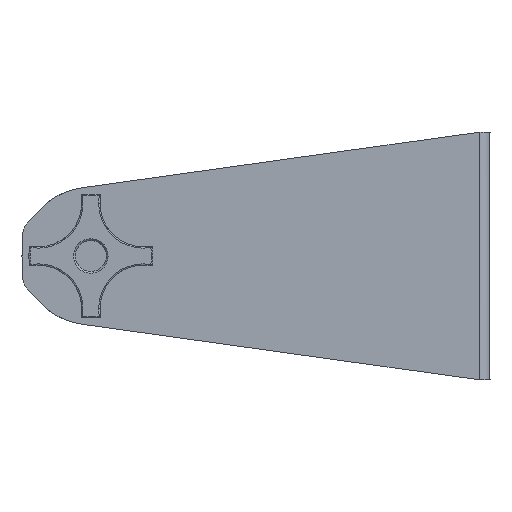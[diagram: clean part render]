
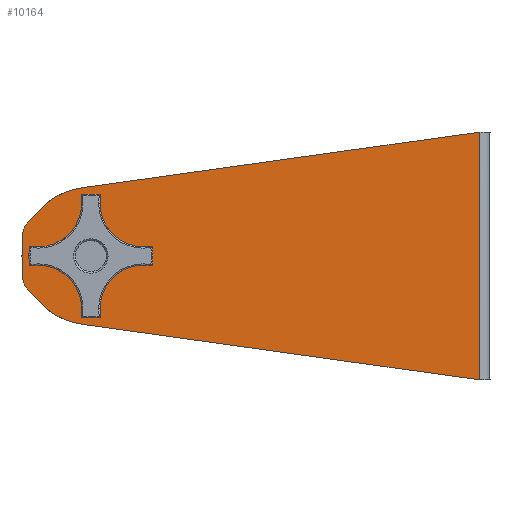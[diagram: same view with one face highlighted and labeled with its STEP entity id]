
A CAD part, left-side view. The second image highlights one B-rep face of the part: STEP entity #10164.
In plain terms, the highlighted planar face has unit normal (-1, 0, 0).
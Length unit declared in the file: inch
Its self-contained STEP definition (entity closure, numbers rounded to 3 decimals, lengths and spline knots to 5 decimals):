
#50 = ORIENTED_EDGE ( 'NONE', *, *, #1726, .F. ) ;
#107 = CARTESIAN_POINT ( 'NONE',  ( -8.513, 8.5, -0.31 ) ) ;
#120 = DIRECTION ( 'NONE',  ( 0., -0.706, 0.708 ) ) ;
#122 = VECTOR ( 'NONE', #7077, 39.37008 ) ;
#171 = VERTEX_POINT ( 'NONE', #4227 ) ;
#313 = CARTESIAN_POINT ( 'NONE',  ( -8.513, 7.0545, 0. ) ) ;
#434 = DIRECTION ( 'NONE',  ( 1., 0., 0. ) ) ;
#484 = DIRECTION ( 'NONE',  ( 1., 0., 0. ) ) ;
#500 = CIRCLE ( 'NONE', #2412, 0.5 ) ;
#652 = AXIS2_PLACEMENT_3D ( 'NONE', #5500, #434, #6367 ) ;
#709 = CARTESIAN_POINT ( 'NONE',  ( -8.513, 8.13521, 0.88255 ) ) ;
#719 = EDGE_CURVE ( 'NONE', #6166, #3842, #1311, .T. ) ;
#734 = CARTESIAN_POINT ( 'NONE',  ( -8.513, 7.42316, 1.23795 ) ) ;
#789 = DIRECTION ( 'NONE',  ( 1., 0., 0. ) ) ;
#839 = EDGE_CURVE ( 'NONE', #7412, #2497, #3029, .T. ) ;
#1010 = DIRECTION ( 'NONE',  ( 1., 0., 0. ) ) ;
#1063 = DIRECTION ( 'NONE',  ( 0., -0.99, 0.139 ) ) ;
#1311 = CIRCLE ( 'NONE', #4528, 0.5 ) ;
#1726 = EDGE_CURVE ( 'NONE', #3090, #4488, #6056, .T. ) ;
#1893 = EDGE_LOOP ( 'NONE', ( #4747, #8431, #1918, #8156, #50, #7754, #8620, #4271, #6674, #3275 ) ) ;
#1912 = DIRECTION ( 'NONE',  ( 1., 0., 0. ) ) ;
#1918 = ORIENTED_EDGE ( 'NONE', *, *, #9965, .F. ) ;
#2158 = VERTEX_POINT ( 'NONE', #6578 ) ;
#2278 = EDGE_CURVE ( 'NONE', #3842, #2158, #4630, .T. ) ;
#2412 = AXIS2_PLACEMENT_3D ( 'NONE', #6994, #1912, #7845 ) ;
#2452 = VERTEX_POINT ( 'NONE', #5559 ) ;
#2497 = VERTEX_POINT ( 'NONE', #7381 ) ;
#2719 = VECTOR ( 'NONE', #6341, 39.37008 ) ;
#2863 = AXIS2_PLACEMENT_3D ( 'NONE', #5551, #484, #6411 ) ;
#2874 = CIRCLE ( 'NONE', #10827, 0.1955 ) ;
#2979 = FACE_OUTER_BOUND ( 'NONE', #1893, .T. ) ;
#3029 = CIRCLE ( 'NONE', #7950, 0.1955 ) ;
#3090 = VERTEX_POINT ( 'NONE', #4776 ) ;
#3184 = DIRECTION ( 'NONE',  ( 0., -1., 0. ) ) ;
#3275 = ORIENTED_EDGE ( 'NONE', *, *, #10072, .F. ) ;
#3309 = DIRECTION ( 'NONE',  ( 0., -1., 0. ) ) ;
#3311 = CARTESIAN_POINT ( 'NONE',  ( -8.513, 8.13521, -0.88255 ) ) ;
#3452 = LINE ( 'NONE', #4659, #9983 ) ;
#3517 = CIRCLE ( 'NONE', #652, 1.25 ) ;
#3842 = VERTEX_POINT ( 'NONE', #107 ) ;
#3848 = EDGE_CURVE ( 'NONE', #2158, #3090, #500, .T. ) ;
#3948 = DIRECTION ( 'NONE',  ( 0., 0., 1. ) ) ;
#4213 = CARTESIAN_POINT ( 'NONE',  ( -8.513, 8.35408, -0.66302 ) ) ;
#4227 = CARTESIAN_POINT ( 'NONE',  ( -8.513, 0.196, 2.24888 ) ) ;
#4271 = ORIENTED_EDGE ( 'NONE', *, *, #719, .F. ) ;
#4313 = EDGE_CURVE ( 'NONE', #2452, #171, #10949, .T. ) ;
#4419 = CARTESIAN_POINT ( 'NONE',  ( -8.513, 8.5, 0.31 ) ) ;
#4488 = VERTEX_POINT ( 'NONE', #709 ) ;
#4528 = AXIS2_PLACEMENT_3D ( 'NONE', #5003, #789, #3309 ) ;
#4630 = LINE ( 'NONE', #4419, #122 ) ;
#4659 = CARTESIAN_POINT ( 'NONE',  ( -8.513, 0.188, -2.25 ) ) ;
#4747 = ORIENTED_EDGE ( 'NONE', *, *, #7453, .F. ) ;
#4776 = CARTESIAN_POINT ( 'NONE',  ( -8.513, 8.35408, 0.66302 ) ) ;
#5003 = CARTESIAN_POINT ( 'NONE',  ( -8.513, 8., -0.31 ) ) ;
#5076 = VERTEX_POINT ( 'NONE', #9584 ) ;
#5477 = CARTESIAN_POINT ( 'NONE',  ( -8.513, 8.35408, -0.66302 ) ) ;
#5500 = CARTESIAN_POINT ( 'NONE',  ( -8.513, 7.25, 0. ) ) ;
#5503 = FACE_BOUND ( 'NONE', #7431, .T. ) ;
#5551 = CARTESIAN_POINT ( 'NONE',  ( -8.513, 7.25, 0. ) ) ;
#5559 = CARTESIAN_POINT ( 'NONE',  ( -8.513, 0.196, -2.24888 ) ) ;
#5609 = DIRECTION ( 'NONE',  ( 0., 1., 0. ) ) ;
#5707 = DIRECTION ( 'NONE',  ( 1., 0., 0. ) ) ;
#5751 = AXIS2_PLACEMENT_3D ( 'NONE', #8152, #10741, #5609 ) ;
#6056 = LINE ( 'NONE', #6894, #10339 ) ;
#6080 = CARTESIAN_POINT ( 'NONE',  ( -8.513, 7.25, 0. ) ) ;
#6121 = EDGE_CURVE ( 'NONE', #4488, #8032, #9181, .T. ) ;
#6166 = VERTEX_POINT ( 'NONE', #4213 ) ;
#6341 = DIRECTION ( 'NONE',  ( 0., 0.706, 0.708 ) ) ;
#6367 = DIRECTION ( 'NONE',  ( 0., -1., 0. ) ) ;
#6411 = DIRECTION ( 'NONE',  ( 0., -1., 0. ) ) ;
#6575 = LINE ( 'NONE', #8669, #6837 ) ;
#6578 = CARTESIAN_POINT ( 'NONE',  ( -8.513, 8.5, 0.31 ) ) ;
#6674 = ORIENTED_EDGE ( 'NONE', *, *, #9611, .F. ) ;
#6837 = VECTOR ( 'NONE', #1063, 39.37008 ) ;
#6894 = CARTESIAN_POINT ( 'NONE',  ( -8.513, 8.35408, 0.66302 ) ) ;
#6937 = DIRECTION ( 'NONE',  ( 0., -1., 0. ) ) ;
#6994 = CARTESIAN_POINT ( 'NONE',  ( -8.513, 8., 0.31 ) ) ;
#7077 = DIRECTION ( 'NONE',  ( 0., 0., 1. ) ) ;
#7242 = LINE ( 'NONE', #5477, #2719 ) ;
#7381 = CARTESIAN_POINT ( 'NONE',  ( -8.513, 7.4455, 0. ) ) ;
#7412 = VERTEX_POINT ( 'NONE', #313 ) ;
#7431 = EDGE_LOOP ( 'NONE', ( #9111, #7899 ) ) ;
#7453 = EDGE_CURVE ( 'NONE', #2452, #5076, #3452, .T. ) ;
#7754 = ORIENTED_EDGE ( 'NONE', *, *, #3848, .F. ) ;
#7845 = DIRECTION ( 'NONE',  ( 0., -1., 0. ) ) ;
#7899 = ORIENTED_EDGE ( 'NONE', *, *, #839, .T. ) ;
#7950 = AXIS2_PLACEMENT_3D ( 'NONE', #9969, #5707, #3184 ) ;
#8032 = VERTEX_POINT ( 'NONE', #734 ) ;
#8152 = CARTESIAN_POINT ( 'NONE',  ( -8.513, 7.25, 0. ) ) ;
#8156 = ORIENTED_EDGE ( 'NONE', *, *, #6121, .F. ) ;
#8400 = VECTOR ( 'NONE', #3948, 39.37008 ) ;
#8431 = ORIENTED_EDGE ( 'NONE', *, *, #4313, .T. ) ;
#8554 = VERTEX_POINT ( 'NONE', #3311 ) ;
#8620 = ORIENTED_EDGE ( 'NONE', *, *, #2278, .F. ) ;
#8669 = CARTESIAN_POINT ( 'NONE',  ( -8.513, 0.188, 2.25 ) ) ;
#8841 = EDGE_CURVE ( 'NONE', #2497, #7412, #2874, .T. ) ;
#8897 = DIRECTION ( 'NONE',  ( 0., 0.99, 0.139 ) ) ;
#9015 = PLANE ( 'NONE',  #5751 ) ;
#9111 = ORIENTED_EDGE ( 'NONE', *, *, #8841, .T. ) ;
#9181 = CIRCLE ( 'NONE', #2863, 1.25 ) ;
#9584 = CARTESIAN_POINT ( 'NONE',  ( -8.513, 7.42316, -1.23795 ) ) ;
#9611 = EDGE_CURVE ( 'NONE', #8554, #6166, #7242, .T. ) ;
#9895 = CARTESIAN_POINT ( 'NONE',  ( -8.513, 0.196, 0. ) ) ;
#9965 = EDGE_CURVE ( 'NONE', #8032, #171, #6575, .T. ) ;
#9969 = CARTESIAN_POINT ( 'NONE',  ( -8.513, 7.25, 0. ) ) ;
#9983 = VECTOR ( 'NONE', #8897, 39.37008 ) ;
#10072 = EDGE_CURVE ( 'NONE', #5076, #8554, #3517, .T. ) ;
#10164 = ADVANCED_FACE ( 'NONE', ( #5503, #2979 ), #9015, .T. ) ;
#10339 = VECTOR ( 'NONE', #120, 39.37008 ) ;
#10741 = DIRECTION ( 'NONE',  ( -1., 0., 0. ) ) ;
#10827 = AXIS2_PLACEMENT_3D ( 'NONE', #6080, #1010, #6937 ) ;
#10949 = LINE ( 'NONE', #9895, #8400 ) ;
